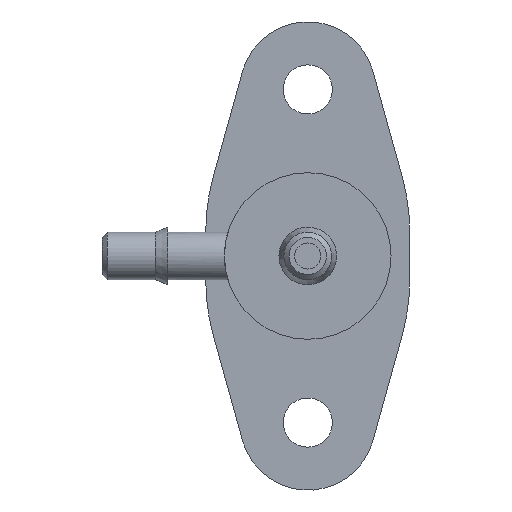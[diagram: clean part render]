
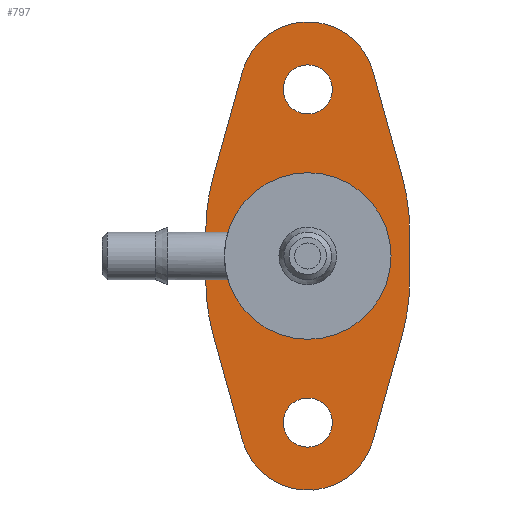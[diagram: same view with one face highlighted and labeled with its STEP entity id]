
A CAD part, left-side view. The second image highlights one B-rep face of the part: STEP entity #797.
In plain terms, the highlighted planar face has unit normal (-1, 0, 0).
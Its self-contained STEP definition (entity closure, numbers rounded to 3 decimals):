
#23=PLANE('',#909);
#44=FACE_BOUND('',#143,.T.);
#45=FACE_BOUND('',#144,.T.);
#46=FACE_BOUND('',#145,.T.);
#93=FACE_OUTER_BOUND('',#142,.T.);
#142=EDGE_LOOP('',(#654,#655,#656,#657,#658,#659,#660,#661,#662,#663,#664,
#665));
#143=EDGE_LOOP('',(#666,#667));
#144=EDGE_LOOP('',(#668,#669));
#145=EDGE_LOOP('',(#670,#671));
#184=LINE('',#1433,#231);
#185=LINE('',#1437,#232);
#186=LINE('',#1441,#233);
#187=LINE('',#1445,#234);
#188=LINE('',#1449,#235);
#189=LINE('',#1452,#236);
#231=VECTOR('',#1108,5.248);
#232=VECTOR('',#1111,2.275);
#233=VECTOR('',#1114,5.248);
#234=VECTOR('',#1117,5.248);
#235=VECTOR('',#1120,2.275);
#236=VECTOR('',#1123,5.248);
#275=CIRCLE('',#854,1.18);
#276=CIRCLE('',#855,1.18);
#279=CIRCLE('',#859,1.18);
#280=CIRCLE('',#860,1.18);
#308=CIRCLE('',#898,4.);
#309=CIRCLE('',#899,4.);
#312=CIRCLE('',#910,3.25);
#313=CIRCLE('',#911,10.);
#314=CIRCLE('',#912,10.);
#315=CIRCLE('',#913,3.25);
#316=CIRCLE('',#914,10.);
#317=CIRCLE('',#915,10.);
#343=VERTEX_POINT('',#1248);
#344=VERTEX_POINT('',#1250);
#347=VERTEX_POINT('',#1258);
#348=VERTEX_POINT('',#1260);
#379=VERTEX_POINT('',#1412);
#380=VERTEX_POINT('',#1413);
#383=VERTEX_POINT('',#1429);
#384=VERTEX_POINT('',#1430);
#385=VERTEX_POINT('',#1432);
#386=VERTEX_POINT('',#1434);
#387=VERTEX_POINT('',#1436);
#388=VERTEX_POINT('',#1438);
#389=VERTEX_POINT('',#1440);
#390=VERTEX_POINT('',#1442);
#391=VERTEX_POINT('',#1444);
#392=VERTEX_POINT('',#1446);
#393=VERTEX_POINT('',#1448);
#394=VERTEX_POINT('',#1450);
#432=EDGE_CURVE('',#344,#343,#275,.T.);
#433=EDGE_CURVE('',#343,#344,#276,.T.);
#437=EDGE_CURVE('',#348,#347,#279,.T.);
#438=EDGE_CURVE('',#347,#348,#280,.T.);
#479=EDGE_CURVE('',#379,#380,#308,.T.);
#480=EDGE_CURVE('',#380,#379,#309,.T.);
#484=EDGE_CURVE('',#383,#384,#312,.T.);
#485=EDGE_CURVE('',#385,#383,#184,.T.);
#486=EDGE_CURVE('',#386,#385,#313,.T.);
#487=EDGE_CURVE('',#387,#386,#185,.T.);
#488=EDGE_CURVE('',#388,#387,#314,.T.);
#489=EDGE_CURVE('',#389,#388,#186,.T.);
#490=EDGE_CURVE('',#390,#389,#315,.T.);
#491=EDGE_CURVE('',#391,#390,#187,.T.);
#492=EDGE_CURVE('',#392,#391,#316,.T.);
#493=EDGE_CURVE('',#393,#392,#188,.T.);
#494=EDGE_CURVE('',#394,#393,#317,.T.);
#495=EDGE_CURVE('',#384,#394,#189,.T.);
#654=ORIENTED_EDGE('',*,*,#484,.F.);
#655=ORIENTED_EDGE('',*,*,#485,.F.);
#656=ORIENTED_EDGE('',*,*,#486,.F.);
#657=ORIENTED_EDGE('',*,*,#487,.F.);
#658=ORIENTED_EDGE('',*,*,#488,.F.);
#659=ORIENTED_EDGE('',*,*,#489,.F.);
#660=ORIENTED_EDGE('',*,*,#490,.F.);
#661=ORIENTED_EDGE('',*,*,#491,.F.);
#662=ORIENTED_EDGE('',*,*,#492,.F.);
#663=ORIENTED_EDGE('',*,*,#493,.F.);
#664=ORIENTED_EDGE('',*,*,#494,.F.);
#665=ORIENTED_EDGE('',*,*,#495,.F.);
#666=ORIENTED_EDGE('',*,*,#432,.T.);
#667=ORIENTED_EDGE('',*,*,#433,.T.);
#668=ORIENTED_EDGE('',*,*,#437,.T.);
#669=ORIENTED_EDGE('',*,*,#438,.T.);
#670=ORIENTED_EDGE('',*,*,#479,.T.);
#671=ORIENTED_EDGE('',*,*,#480,.T.);
#797=ADVANCED_FACE('',(#93,#44,#45,#46),#23,.F.);
#854=AXIS2_PLACEMENT_3D('',#1251,#983,#984);
#855=AXIS2_PLACEMENT_3D('',#1252,#985,#986);
#859=AXIS2_PLACEMENT_3D('',#1261,#994,#995);
#860=AXIS2_PLACEMENT_3D('',#1262,#996,#997);
#898=AXIS2_PLACEMENT_3D('',#1414,#1081,#1082);
#899=AXIS2_PLACEMENT_3D('',#1415,#1083,#1084);
#909=AXIS2_PLACEMENT_3D('',#1428,#1104,#1105);
#910=AXIS2_PLACEMENT_3D('',#1431,#1106,#1107);
#911=AXIS2_PLACEMENT_3D('',#1435,#1109,#1110);
#912=AXIS2_PLACEMENT_3D('',#1439,#1112,#1113);
#913=AXIS2_PLACEMENT_3D('',#1443,#1115,#1116);
#914=AXIS2_PLACEMENT_3D('',#1447,#1118,#1119);
#915=AXIS2_PLACEMENT_3D('',#1451,#1121,#1122);
#983=DIRECTION('center_axis',(1.,0.,0.));
#984=DIRECTION('ref_axis',(0.,0.,1.));
#985=DIRECTION('center_axis',(1.,0.,0.));
#986=DIRECTION('ref_axis',(0.,0.,1.));
#994=DIRECTION('center_axis',(1.,0.,0.));
#995=DIRECTION('ref_axis',(0.,0.,1.));
#996=DIRECTION('center_axis',(1.,0.,0.));
#997=DIRECTION('ref_axis',(0.,0.,1.));
#1081=DIRECTION('center_axis',(1.,0.,0.));
#1082=DIRECTION('ref_axis',(0.,0.,
-1.));
#1083=DIRECTION('center_axis',(1.,0.,0.));
#1084=DIRECTION('ref_axis',(0.,0.,
-1.));
#1104=DIRECTION('center_axis',(1.,0.,0.));
#1105=DIRECTION('ref_axis',(0.,0.,-1.));
#1106=DIRECTION('center_axis',(1.,0.,0.));
#1107=DIRECTION('ref_axis',(0.,0.964,0.268));
#1108=DIRECTION('',(0.,-0.268,0.964));
#1109=DIRECTION('center_axis',(1.,0.,0.));
#1110=DIRECTION('ref_axis',(0.,1.,0.));
#1111=DIRECTION('',(0.,0.,1.));
#1112=DIRECTION('center_axis',(1.,0.,0.));
#1113=DIRECTION('ref_axis',(0.,0.964,-0.268));
#1114=DIRECTION('',(0.,0.268,0.964));
#1115=DIRECTION('center_axis',(1.,0.,0.));
#1116=DIRECTION('ref_axis',(0.,-0.964,-0.268));
#1117=DIRECTION('',(0.,0.268,-0.964));
#1118=DIRECTION('center_axis',(1.,0.,0.));
#1119=DIRECTION('ref_axis',(0.,-1.,0.));
#1120=DIRECTION('',(0.,0.,-1.));
#1121=DIRECTION('center_axis',(1.,0.,0.));
#1122=DIRECTION('ref_axis',(0.,-0.964,0.268));
#1123=DIRECTION('',(0.,-0.268,-0.964));
#1248=CARTESIAN_POINT('',(11.8,1.18,8.));
#1250=CARTESIAN_POINT('',(11.8,0.,6.82));
#1251=CARTESIAN_POINT('Origin',(11.8,0.,8.));
#1252=CARTESIAN_POINT('Origin',(11.8,0.,8.));
#1258=CARTESIAN_POINT('',(11.8,1.18,-8.));
#1260=CARTESIAN_POINT('',(11.8,0.,-9.18));
#1261=CARTESIAN_POINT('Origin',(11.8,0.,-8.));
#1262=CARTESIAN_POINT('Origin',(11.8,0.,-8.));
#1412=CARTESIAN_POINT('',(11.8,0.,4.));
#1413=CARTESIAN_POINT('',(11.8,-4.,0.));
#1414=CARTESIAN_POINT('Origin',(11.8,0.,0.));
#1415=CARTESIAN_POINT('Origin',(11.8,0.,0.));
#1428=CARTESIAN_POINT('Origin',(11.8,0.,-11.385));
#1429=CARTESIAN_POINT('',(11.8,3.132,8.869));
#1430=CARTESIAN_POINT('',(11.8,-3.132,8.869));
#1431=CARTESIAN_POINT('Origin',(11.8,0.,8.));
#1432=CARTESIAN_POINT('',(11.8,4.536,3.813));
#1433=CARTESIAN_POINT('',(11.8,4.536,3.813));
#1434=CARTESIAN_POINT('',(11.8,4.9,1.138));
#1435=CARTESIAN_POINT('Origin',(11.8,-5.1,1.138));
#1436=CARTESIAN_POINT('',(11.8,4.9,-1.138));
#1437=CARTESIAN_POINT('',(11.8,4.9,-1.138));
#1438=CARTESIAN_POINT('',(11.8,4.536,-3.813));
#1439=CARTESIAN_POINT('Origin',(11.8,-5.1,-1.138));
#1440=CARTESIAN_POINT('',(11.8,3.132,-8.869));
#1441=CARTESIAN_POINT('',(11.8,3.132,-8.869));
#1442=CARTESIAN_POINT('',(11.8,-3.132,-8.869));
#1443=CARTESIAN_POINT('Origin',(11.8,0.,-8.));
#1444=CARTESIAN_POINT('',(11.8,-4.536,-3.813));
#1445=CARTESIAN_POINT('',(11.8,-4.536,-3.813));
#1446=CARTESIAN_POINT('',(11.8,-4.9,-1.138));
#1447=CARTESIAN_POINT('Origin',(11.8,5.1,-1.138));
#1448=CARTESIAN_POINT('',(11.8,-4.9,1.138));
#1449=CARTESIAN_POINT('',(11.8,-4.9,1.138));
#1450=CARTESIAN_POINT('',(11.8,-4.536,3.813));
#1451=CARTESIAN_POINT('Origin',(11.8,5.1,1.138));
#1452=CARTESIAN_POINT('',(11.8,-3.132,8.869));
